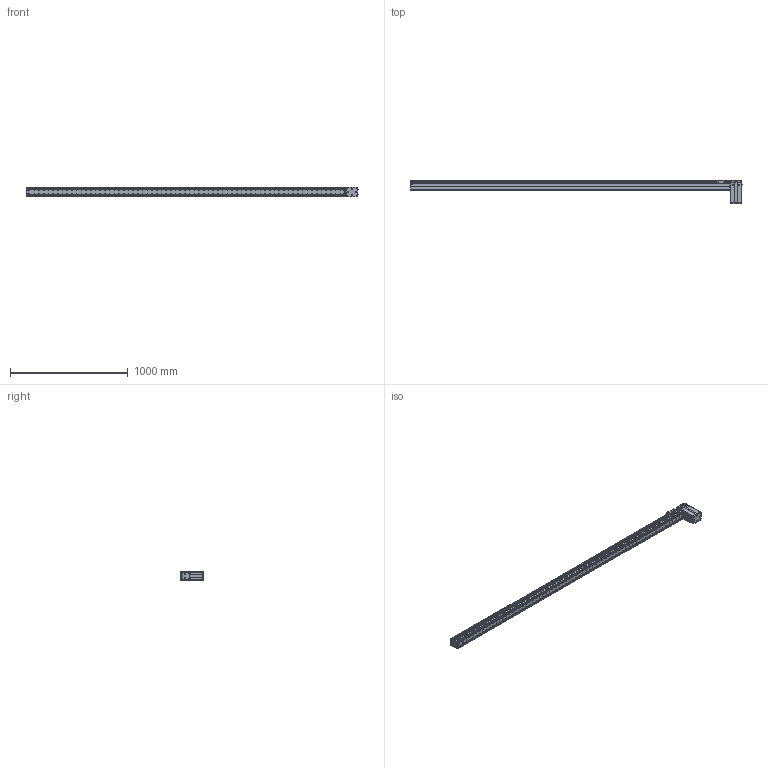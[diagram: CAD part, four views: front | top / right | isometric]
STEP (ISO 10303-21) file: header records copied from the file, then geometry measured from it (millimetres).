
FILE_DESCRIPTION((''),'2;1');
FILE_NAME('BE10_-BU-S_N-R5_IGS_PRT','2017-06-18T',(' '),(''),'PRO/ENGINEER BY PARAMETRIC TECHNOLOGY CORPORATION, 2015030','PRO/ENGINEER BY PARAMETRIC TECHNOLOGY CORPORATION, 2015030','');
FILE_SCHEMA(('CONFIG_CONTROL_DESIGN'));
Products named in the file (1): BE10_-BU-S_N-R5_IGS_PRT
Bounding box: 2820.8 x 202.72 x 78 mm (x, y, z)
Volume: 3479111.9 mm3; surface area: 2502832.4 mm2
Topology: 12 solids, 222 shells, 2454 faces, 6767 edges, 4535 vertices
Faces by surface type: cylinder 1223, plane 1072, cone 103, sphere 28, torus 25, bspline 3
Entity records: 81002 total; most frequent: CARTESIAN_POINT 16658, DIRECTION 13743, ORIENTED_EDGE 12614, EDGE_CURVE 6713, AXIS2_PLACEMENT_3D 5095, VERTEX_POINT 4535, VECTOR 3553, LINE 3553
